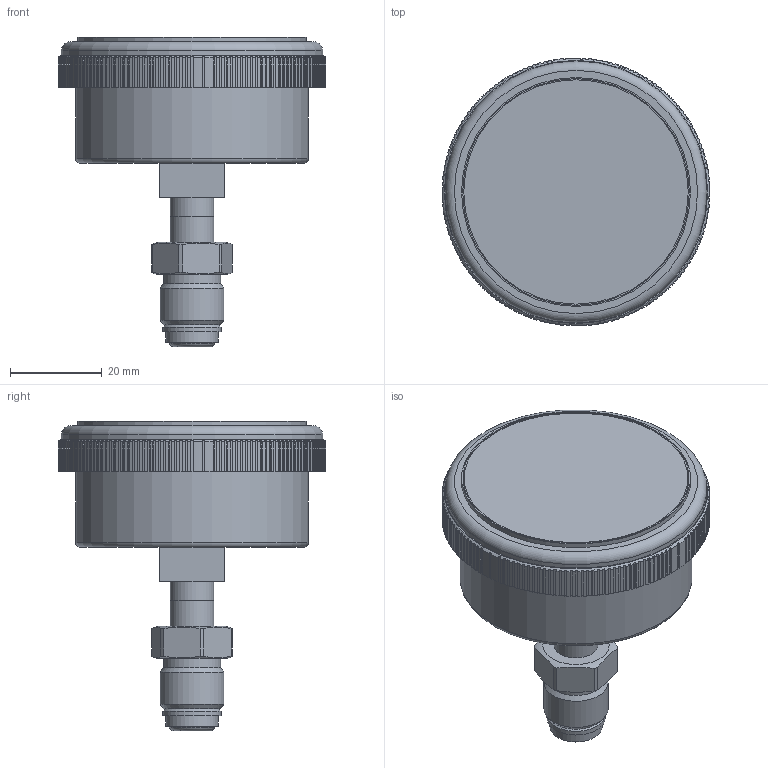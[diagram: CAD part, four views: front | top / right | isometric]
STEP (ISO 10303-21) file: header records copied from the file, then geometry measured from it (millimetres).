
FILE_DESCRIPTION(/* description */ (''),/* implementation_level */ '2;1');
FILE_NAME(/* name */ 'P800_50PI_CENTER BACK MOUNT_SWIVEL(M).stp',/* time_stamp */ '2025-03-27T07:59:22+09:00',/* author */ ('wise-209'),/* organization */ (''),/* preprocessor_version */ 'ST-DEVELOPER v19.2',/* originating_system */ 'Autodesk Inventor 2024',/* authorisation */ '');
FILE_SCHEMA (('AUTOMOTIVE_DESIGN { 1 0 10303 214 3 1 1 }'));
Length unit declared in the file: millimetre
Products named in the file (4): P820_50mm_F Type_SM_ASSY.ipt; 50pi F TYPE SHANK; UNF-MALE; P810_CASE,COVER,SHANK_ VCR
Assembly tree (3 placements, depth 2):
  P820_50mm_F Type_SM_ASSY.ipt
    50pi F TYPE SHANK
    UNF-MALE
    P810_CASE,COVER,SHANK_ VCR
Bounding box: 58.5 x 58.5 x 67.6 mm (x, y, z)
Volume: 59234.4 mm3; surface area: 19861.6 mm2
Topology: 3 solids, 4 shells, 647 faces, 1873 edges, 1245 vertices
Faces by surface type: plane 462, cylinder 166, cone 11, torus 8
Full cylindrical faces by diameter (mm): 1 x1, 2.5 x1, 4 x1, 6.3 x1, 7.7 x1, 9.53 x2, 11.4 x1, 12.5 x1, 12.7 x1, 14 x1, 48.998 x1, 50 x1, 50.8 x1, 55.5 x1, 57.1 x1
Entity records: 24668 total; most frequent: CARTESIAN_POINT 6996, ORIENTED_EDGE 3742, DIRECTION 3662, EDGE_CURVE 1871, LINE 1346, VECTOR 1346, VERTEX_POINT 1245, AXIS2_PLACEMENT_3D 1158
